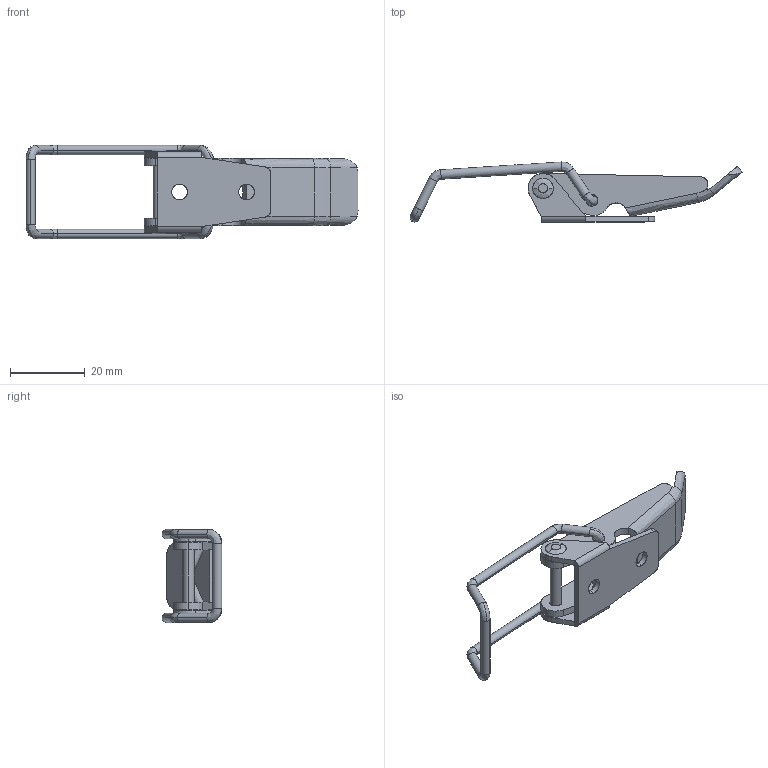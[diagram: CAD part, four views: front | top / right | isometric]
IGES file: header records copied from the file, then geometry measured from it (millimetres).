
Start section: SolidWorks IGES FILE using analytic representation for surfaces
Global section: file name: C:\WINNT\Profiles\cbrechard\Bureau\GE 1061\GE 1061.IGS; native system: SolidWorks 2001Plus by SolidWorks Corporation; preprocessor: Version 5.3; author: CBRECHARD; date: 050124.102734; units: millimetre
Bounding box: 89.1 x 16.08 x 25 mm (x, y, z)
Surface area: 6322.4 mm2 (no closed solid volume)
Topology: 0 solids, 0 shells, 123 faces, 1640 edges, 1640 vertices
Faces by surface type: bspline 63, revolution 60
